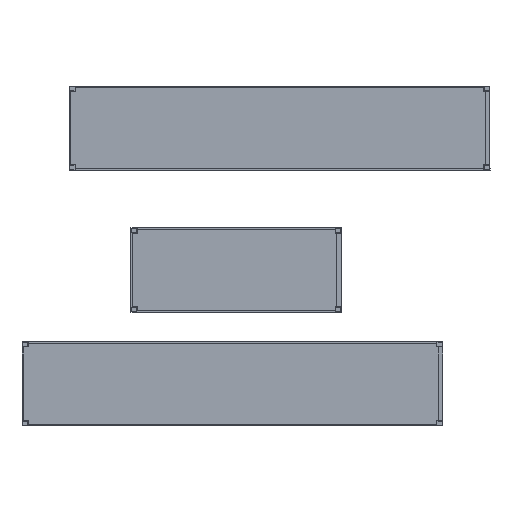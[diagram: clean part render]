
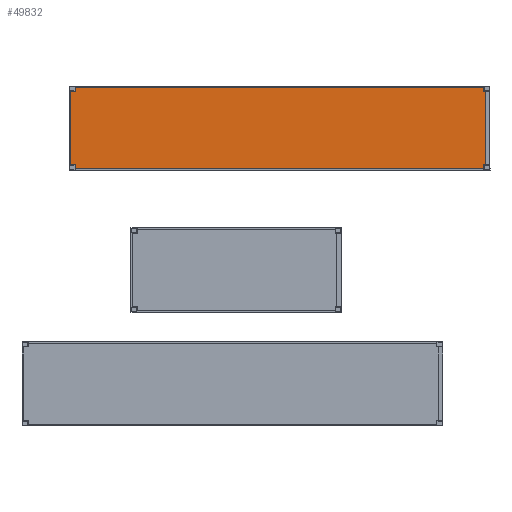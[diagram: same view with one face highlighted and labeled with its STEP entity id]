
A CAD part, top view. The second image highlights one B-rep face of the part: STEP entity #49832.
In plain terms, the highlighted planar face has unit normal (0, 0, 1).
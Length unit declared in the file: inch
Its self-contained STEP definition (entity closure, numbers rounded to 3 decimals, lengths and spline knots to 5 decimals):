
#49456=CARTESIAN_POINT('',(-2.,0.0,0.0));
#49457=VERTEX_POINT('',#49456);
#49464=CARTESIAN_POINT('',(-2.0,84.0,0.0));
#49465=VERTEX_POINT('',#49464);
#49466=CARTESIAN_POINT('',(-2.,0.0,0.0));
#49467=DIRECTION('',(0.0,1.0,0.0));
#49468=VECTOR('',#49467,84.0);
#49469=LINE('',#49466,#49468);
#49470=EDGE_CURVE('',#49457,#49465,#49469,.T.);
#49494=CARTESIAN_POINT('',(0.,0.,0.0));
#49495=VERTEX_POINT('',#49494);
#49502=CARTESIAN_POINT('',(0.,0.,0.0));
#49503=DIRECTION('',(-1.0,0.0,0.0));
#49504=VECTOR('',#49503,2.);
#49505=LINE('',#49502,#49504);
#49506=EDGE_CURVE('',#49495,#49457,#49505,.T.);
#49525=CARTESIAN_POINT('',(0.0,-4.25,0.0));
#49526=VERTEX_POINT('',#49525);
#49533=CARTESIAN_POINT('',(0.0,-4.25,0.0));
#49534=DIRECTION('',(0.0,1.0,0.0));
#49535=VECTOR('',#49534,4.25);
#49536=LINE('',#49533,#49535);
#49537=EDGE_CURVE('',#49526,#49495,#49536,.T.);
#49556=CARTESIAN_POINT('',(466.,-4.25,0.0));
#49557=VERTEX_POINT('',#49556);
#49564=CARTESIAN_POINT('',(466.,-4.25,0.0));
#49565=DIRECTION('',(-1.0,0.0,0.0));
#49566=VECTOR('',#49565,466.);
#49567=LINE('',#49564,#49566);
#49568=EDGE_CURVE('',#49557,#49526,#49567,.T.);
#49587=CARTESIAN_POINT('',(466.,0.,0.0));
#49588=VERTEX_POINT('',#49587);
#49595=CARTESIAN_POINT('',(466.,0.,0.0));
#49596=DIRECTION('',(0.0,-1.0,0.0));
#49597=VECTOR('',#49596,4.25);
#49598=LINE('',#49595,#49597);
#49599=EDGE_CURVE('',#49588,#49557,#49598,.T.);
#49618=CARTESIAN_POINT('',(471.25,0.,0.0));
#49619=VERTEX_POINT('',#49618);
#49626=CARTESIAN_POINT('',(471.25,0.,0.0));
#49627=DIRECTION('',(-1.0,0.0,0.0));
#49628=VECTOR('',#49627,5.25);
#49629=LINE('',#49626,#49628);
#49630=EDGE_CURVE('',#49619,#49588,#49629,.T.);
#49649=CARTESIAN_POINT('',(471.25,84.,0.0));
#49650=VERTEX_POINT('',#49649);
#49657=CARTESIAN_POINT('',(471.25,84.,0.0));
#49658=DIRECTION('',(0.0,-1.0,0.0));
#49659=VECTOR('',#49658,84.);
#49660=LINE('',#49657,#49659);
#49661=EDGE_CURVE('',#49650,#49619,#49660,.T.);
#49680=CARTESIAN_POINT('',(466.,84.,0.0));
#49681=VERTEX_POINT('',#49680);
#49688=CARTESIAN_POINT('',(466.,84.,0.0));
#49689=DIRECTION('',(1.0,0.0,0.0));
#49690=VECTOR('',#49689,5.25);
#49691=LINE('',#49688,#49690);
#49692=EDGE_CURVE('',#49681,#49650,#49691,.T.);
#49711=CARTESIAN_POINT('',(466.,88.25,0.0));
#49712=VERTEX_POINT('',#49711);
#49719=CARTESIAN_POINT('',(466.,88.25,0.0));
#49720=DIRECTION('',(0.0,-1.0,0.0));
#49721=VECTOR('',#49720,4.25);
#49722=LINE('',#49719,#49721);
#49723=EDGE_CURVE('',#49712,#49681,#49722,.T.);
#49742=CARTESIAN_POINT('',(0.,88.25,0.0));
#49743=VERTEX_POINT('',#49742);
#49750=CARTESIAN_POINT('',(0.,88.25,0.0));
#49751=DIRECTION('',(1.0,0.0,0.0));
#49752=VECTOR('',#49751,466.);
#49753=LINE('',#49750,#49752);
#49754=EDGE_CURVE('',#49743,#49712,#49753,.T.);
#49773=CARTESIAN_POINT('',(0.,84.0,0.0));
#49774=VERTEX_POINT('',#49773);
#49781=CARTESIAN_POINT('',(0.,84.0,0.0));
#49782=DIRECTION('',(0.0,1.0,0.0));
#49783=VECTOR('',#49782,4.25);
#49784=LINE('',#49781,#49783);
#49785=EDGE_CURVE('',#49774,#49743,#49784,.T.);
#49803=CARTESIAN_POINT('',(-2.0,84.0,0.0));
#49804=DIRECTION('',(1.0,0.0,0.0));
#49805=VECTOR('',#49804,2.);
#49806=LINE('',#49803,#49805);
#49807=EDGE_CURVE('',#49465,#49774,#49806,.T.);
#49813=CARTESIAN_POINT('',(234.60059,42.0,0.0));
#49814=DIRECTION('',(0.0,0.0,1.0));
#49815=DIRECTION('',(1.0,0.0,0.0));
#49816=AXIS2_PLACEMENT_3D('',#49813,#49814,#49815);
#49817=PLANE('',#49816);
#49818=ORIENTED_EDGE('',*,*,#49807,.F.);
#49819=ORIENTED_EDGE('',*,*,#49470,.F.);
#49820=ORIENTED_EDGE('',*,*,#49506,.F.);
#49821=ORIENTED_EDGE('',*,*,#49537,.F.);
#49822=ORIENTED_EDGE('',*,*,#49568,.F.);
#49823=ORIENTED_EDGE('',*,*,#49599,.F.);
#49824=ORIENTED_EDGE('',*,*,#49630,.F.);
#49825=ORIENTED_EDGE('',*,*,#49661,.F.);
#49826=ORIENTED_EDGE('',*,*,#49692,.F.);
#49827=ORIENTED_EDGE('',*,*,#49723,.F.);
#49828=ORIENTED_EDGE('',*,*,#49754,.F.);
#49829=ORIENTED_EDGE('',*,*,#49785,.F.);
#49830=EDGE_LOOP('',(#49818,#49819,#49820,#49821,#49822,#49823,#49824,#49825,#49826,#49827,#49828,#49829));
#49831=FACE_OUTER_BOUND('',#49830,.T.);
#49832=ADVANCED_FACE('',(#49831),#49817,.T.);
